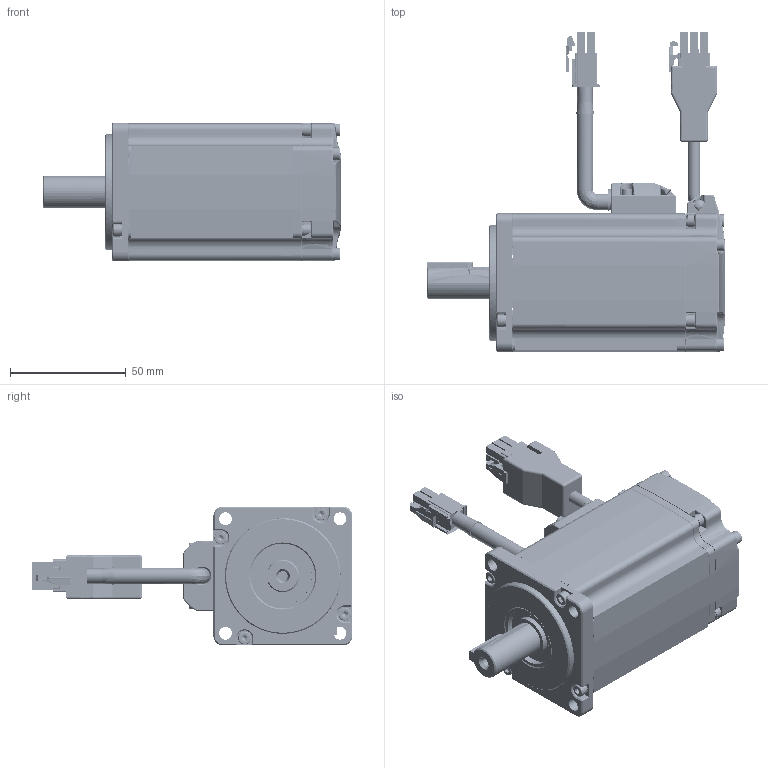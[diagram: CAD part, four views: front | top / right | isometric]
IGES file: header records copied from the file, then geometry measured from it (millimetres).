
Start section: SolidWorks IGES file using analytic representation for surfaces
Bounding box: 129 x 138.49 x 60 mm (x, y, z)
Surface area: 66678.9 mm2 (no closed solid volume)
Topology: 0 solids, 0 shells, 4200 faces, 24547 edges, 23819 vertices
Faces by surface type: bspline 2261, revolution 1939
